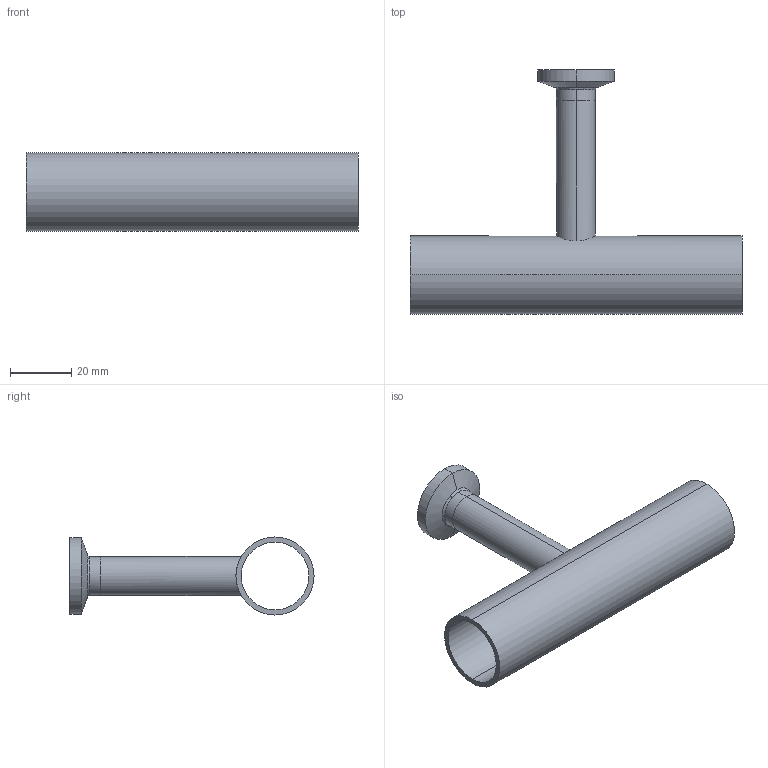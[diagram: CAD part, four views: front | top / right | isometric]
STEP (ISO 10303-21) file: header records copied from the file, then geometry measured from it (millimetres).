
FILE_DESCRIPTION (( 'STEP AP214' ), '1' );
FILE_NAME ('TE7RWWC6L1.0x.5-...STEP', '2016-05-23T07:50:56', ( 'eran' ), ( '' ), 'SwSTEP 2.0', 'SolidWorks 2016', '' );
FILE_SCHEMA (( 'AUTOMOTIVE_DESIGN' ));
Length unit declared in the file: millimetre
Products named in the file (1): TE7RWWC6L1.0x.5-..
Bounding box: 108 x 79.4 x 25.4 mm (x, y, z)
Volume: 17625.6 mm3; surface area: 21094.3 mm2
Topology: 2 solids, 2 shells, 34 faces, 82 edges, 54 vertices
Faces by surface type: cylinder 16, bspline 8, plane 6, cone 4
Entity records: 1315 total; most frequent: CARTESIAN_POINT 459, DIRECTION 182, ORIENTED_EDGE 164, EDGE_CURVE 82, AXIS2_PLACEMENT_3D 81, CIRCLE 54, VERTEX_POINT 54, EDGE_LOOP 42
